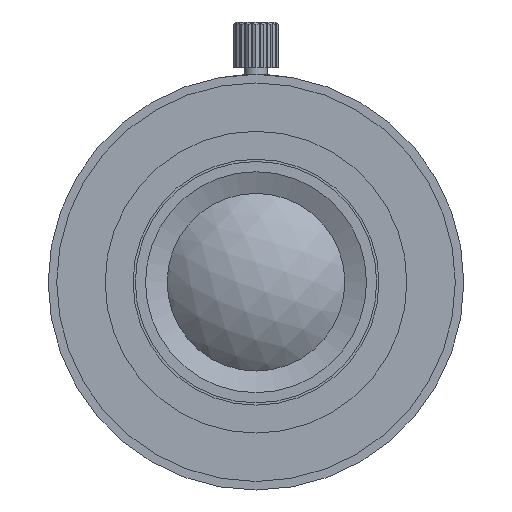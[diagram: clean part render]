
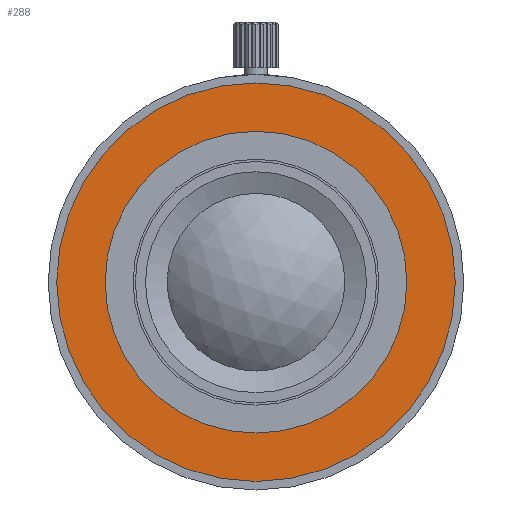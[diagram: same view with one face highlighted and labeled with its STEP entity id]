
A CAD part, front view. The second image highlights one B-rep face of the part: STEP entity #288.
In plain terms, the highlighted planar face has unit normal (0, -1, 0).
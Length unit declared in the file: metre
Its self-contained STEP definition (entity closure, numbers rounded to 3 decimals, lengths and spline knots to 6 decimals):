
#288=ADVANCED_FACE('261:765',(#622,#623),#624,.F.);
#622=FACE_BOUND('',#975,.T.);
#623=FACE_OUTER_BOUND('',#976,.T.);
#624=PLANE('',#977);
#975=EDGE_LOOP('',(#1605));
#976=EDGE_LOOP('',(#1606));
#977=AXIS2_PLACEMENT_3D('',#1607,#1608,#1609);
#1605=ORIENTED_EDGE('',*,*,#2115,.F.);
#1606=ORIENTED_EDGE('',*,*,#2118,.F.);
#1607=CARTESIAN_POINT('',(0.0,-0.027155,0.022555));
#1608=DIRECTION('',(-0.0,1.0,0.));
#1609=DIRECTION('',(1.0,0.0,0.0));
#2115=EDGE_CURVE('261:1293',#2555,#2555,#2556,.T.);
#2118=EDGE_CURVE('261:1296',#2560,#2560,#2561,.T.);
#2555=VERTEX_POINT('',#3224);
#2556=CIRCLE('',#3225,0.01325);
#2560=VERTEX_POINT('',#3229);
#2561=CIRCLE('',#3230,0.0175);
#3224=CARTESIAN_POINT('',(-0.01325,-0.027155,0.022555));
#3225=AXIS2_PLACEMENT_3D('',#3559,#3560,#3561);
#3229=CARTESIAN_POINT('',(0.0175,-0.027155,0.022555));
#3230=AXIS2_PLACEMENT_3D('',#3565,#3566,#3567);
#3559=CARTESIAN_POINT('',(0.0,-0.027155,0.022555));
#3560=DIRECTION('',(-0.0,-1.0,0.));
#3561=DIRECTION('',(-1.0,0.0,0.0));
#3565=CARTESIAN_POINT('',(0.0,-0.027155,0.022555));
#3566=DIRECTION('',(-0.0,1.0,0.));
#3567=DIRECTION('',(1.0,0.0,0.0));
